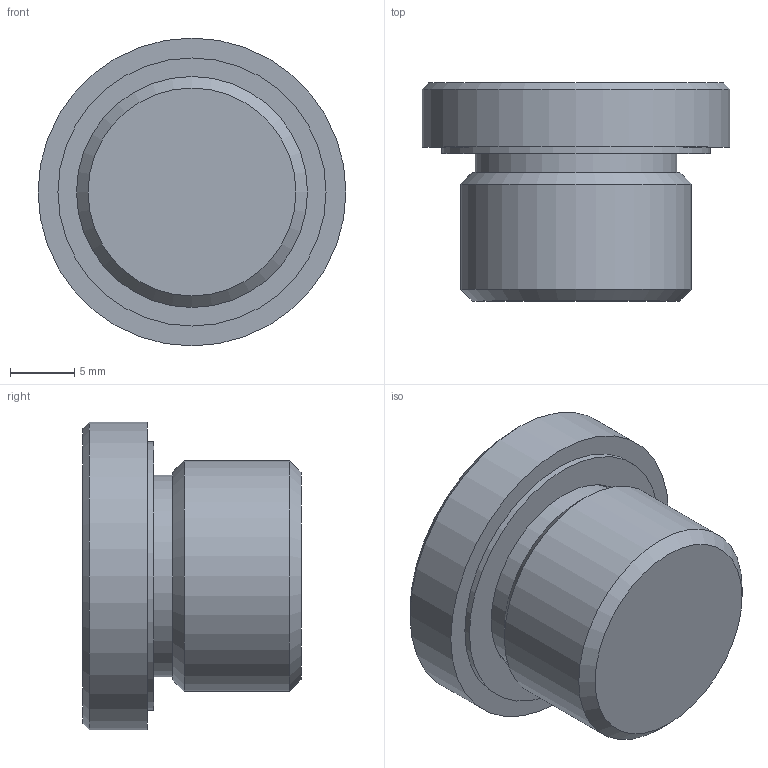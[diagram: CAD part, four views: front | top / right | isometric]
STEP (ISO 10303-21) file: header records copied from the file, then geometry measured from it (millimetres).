
FILE_DESCRIPTION( ( 'STEP AP203' ), '1' );
FILE_NAME( 'C:/Temp/Ganter_Step_05_03_2020/data/3_5/gn749/gn749_a/Threaded plug GN 749-M18x1,5-A.stp', '2020-03-12T13:41:34', ( 'License CC BY-ND 4.0' ), ( 'CADENAS' ), ' ', 'PARTsolutions', ' ' );
FILE_SCHEMA( ( 'CONFIG_CONTROL_DESIGN' ) );
Length unit declared in the file: millimetre
Products named in the file (1): _Threaded plug GN 749-M18x1,5-A
Bounding box: 24 x 17 x 24 mm (x, y, z)
Volume: 4855.3 mm3; surface area: 2219 mm2
Topology: 1 solids, 1 shells, 21 faces, 41 edges, 27 vertices
Faces by surface type: plane 13, cylinder 5, cone 3
Full cylindrical faces by diameter (mm): 15.7 x1, 16.1 x1, 18 x1, 20.9 x1, 24 x1
Entity records: 526 total; most frequent: DIRECTION 88, CARTESIAN_POINT 78, ORIENTED_EDGE 62, AXIS2_PLACEMENT_3D 35, EDGE_LOOP 34, EDGE_CURVE 31, FACE_OUTER_BOUND 26, VERTEX_POINT 25
